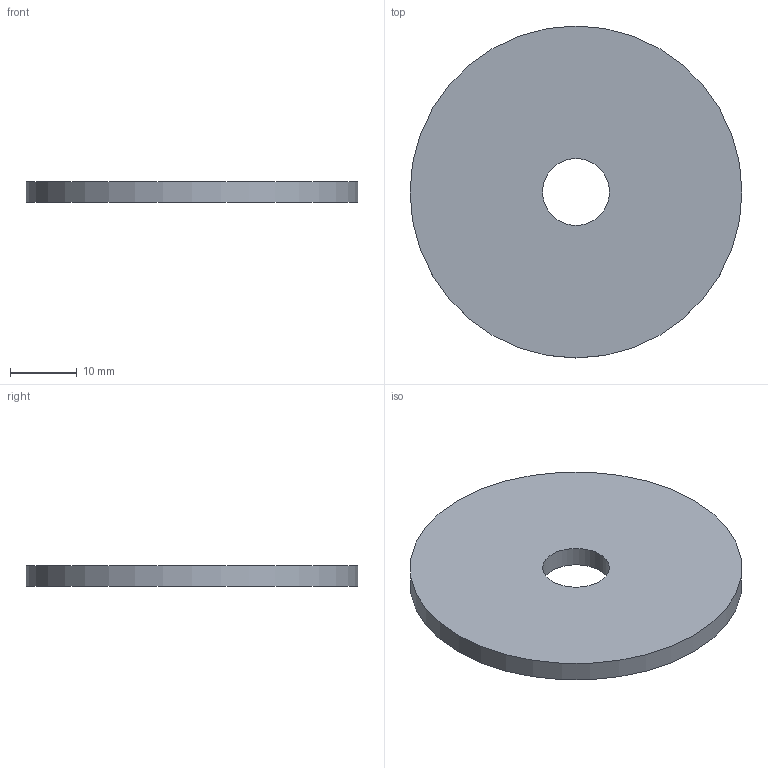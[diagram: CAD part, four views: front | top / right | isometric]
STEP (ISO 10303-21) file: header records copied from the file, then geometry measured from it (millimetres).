
FILE_DESCRIPTION(('Open CASCADE Model'),'2;1');
FILE_NAME('Open CASCADE Shape Model','2026-11-18T16:59:36',('Author'),( 'Open CASCADE'),'Open CASCADE STEP processor 7.9','Open CASCADE 7.9' ,'Unknown');
FILE_SCHEMA(('AUTOMOTIVE_DESIGN { 1 0 10303 214 1 1 1 1 }'));
Length unit declared in the file: millimetre
Products named in the file (1): Open CASCADE STEP translator 7.9 12
Bounding box: 49.6 x 49.6 x 3 mm (x, y, z)
Volume: 5561 mm3; surface area: 4269 mm2
Topology: 1 solids, 1 shells, 4 faces, 6 edges, 4 vertices
Faces by surface type: cylinder 2, plane 2
Full cylindrical faces by diameter (mm): 10 x1, 49.6 x1
Entity records: 186 total; most frequent: DIRECTION 32, CARTESIAN_POINT 27, ORIENTED_EDGE 12, PCURVE 12, DEFINITIONAL_REPRESENTATION 12, LINE 10, VECTOR 10, AXIS2_PLACEMENT_3D 9
